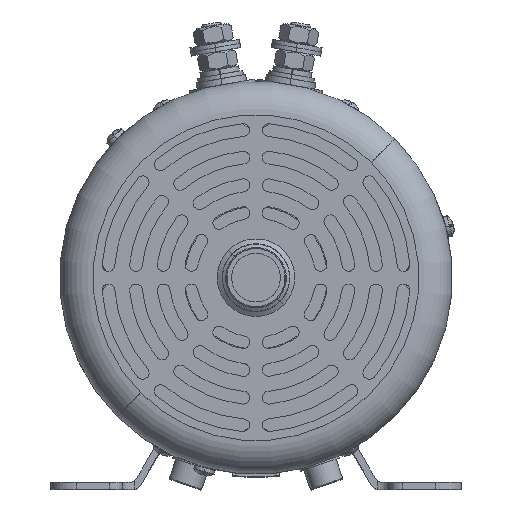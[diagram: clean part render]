
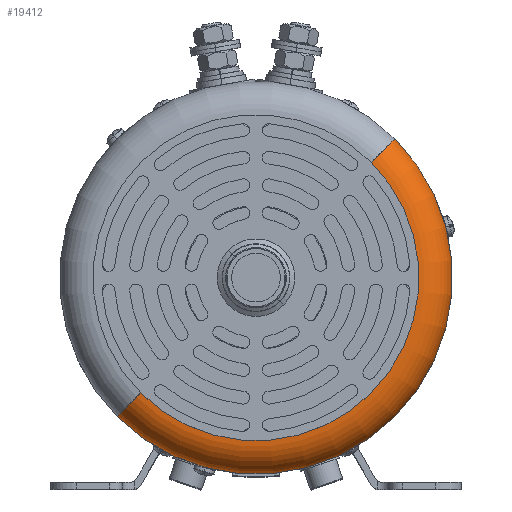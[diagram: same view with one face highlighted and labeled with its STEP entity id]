
A CAD part, top view. The second image highlights one B-rep face of the part: STEP entity #19412.
In plain terms, the highlighted toroidal (fillet/blend) face has major radius 61.913 mm and minor radius 12.7 mm.
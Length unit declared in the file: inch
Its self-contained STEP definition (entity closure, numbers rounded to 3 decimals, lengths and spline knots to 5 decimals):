
#2756 = AXIS2_PLACEMENT_3D ( 'NONE', #59651, #68294, #92169 ) ;
#8000 = CARTESIAN_POINT ( 'NONE',  ( 0., 0., 16.6408 ) ) ;
#10303 = CARTESIAN_POINT ( 'NONE',  ( 0., 0., 17.1408 ) ) ;
#19412 = ADVANCED_FACE ( 'NONE', ( #103303 ), #81299, .T. ) ;
#21121 = ORIENTED_EDGE ( 'NONE', *, *, #81536, .F. ) ;
#21929 = AXIS2_PLACEMENT_3D ( 'NONE', #53614, #29404, #37657 ) ;
#27619 = CIRCLE ( 'NONE', #87760, 0.5 ) ;
#28827 = CARTESIAN_POINT ( 'NONE',  ( -2.07713, -2.07713, 16.6408 ) ) ;
#29404 = DIRECTION ( 'NONE',  ( 0.707, -0.707, 0. ) ) ;
#33293 = AXIS2_PLACEMENT_3D ( 'NONE', #10303, #94037, #93329 ) ;
#34237 = AXIS2_PLACEMENT_3D ( 'NONE', #8000, #98635, #49494 ) ;
#37657 = DIRECTION ( 'NONE',  ( 0.707, 0.707, 0. ) ) ;
#38096 = CIRCLE ( 'NONE', #33293, 2.4375 ) ;
#41015 = ORIENTED_EDGE ( 'NONE', *, *, #41252, .T. ) ;
#41252 = EDGE_CURVE ( 'NONE', #59189, #94440, #102871, .T. ) ;
#44491 = CARTESIAN_POINT ( 'NONE',  ( 1.72357, 1.72357, 17.1408 ) ) ;
#45858 = VERTEX_POINT ( 'NONE', #72366 ) ;
#48560 = CARTESIAN_POINT ( 'NONE',  ( -1.72357, -1.72357, 16.6408 ) ) ;
#49494 = DIRECTION ( 'NONE',  ( 0.707, 0.707, 0. ) ) ;
#52371 = CIRCLE ( 'NONE', #21929, 0.5 ) ;
#53614 = CARTESIAN_POINT ( 'NONE',  ( 1.72357, 1.72357, 16.6408 ) ) ;
#59189 = VERTEX_POINT ( 'NONE', #28827 ) ;
#59651 = CARTESIAN_POINT ( 'NONE',  ( 0., 0., 16.6408 ) ) ;
#64334 = CARTESIAN_POINT ( 'NONE',  ( 2.07713, 2.07713, 16.6408 ) ) ;
#68294 = DIRECTION ( 'NONE',  ( 0., 0., 1. ) ) ;
#71777 = EDGE_LOOP ( 'NONE', ( #82313, #41015, #94760, #21121 ) ) ;
#72366 = CARTESIAN_POINT ( 'NONE',  ( -1.72357, -1.72357, 17.1408 ) ) ;
#81299 = TOROIDAL_SURFACE ( 'NONE', #34237, 2.4375, 0.5 ) ;
#81536 = EDGE_CURVE ( 'NONE', #45858, #88981, #38096, .T. ) ;
#82313 = ORIENTED_EDGE ( 'NONE', *, *, #87368, .F. ) ;
#86423 = EDGE_CURVE ( 'NONE', #94440, #88981, #52371, .T. ) ;
#87368 = EDGE_CURVE ( 'NONE', #59189, #45858, #27619, .T. ) ;
#87760 = AXIS2_PLACEMENT_3D ( 'NONE', #48560, #91182, #106376 ) ;
#88981 = VERTEX_POINT ( 'NONE', #44491 ) ;
#91182 = DIRECTION ( 'NONE',  ( -0.707, 0.707, 0. ) ) ;
#92169 = DIRECTION ( 'NONE',  ( 0.707, 0.707, 0. ) ) ;
#93329 = DIRECTION ( 'NONE',  ( 0.707, 0.707, 0. ) ) ;
#94037 = DIRECTION ( 'NONE',  ( 0., 0., 1. ) ) ;
#94440 = VERTEX_POINT ( 'NONE', #64334 ) ;
#94760 = ORIENTED_EDGE ( 'NONE', *, *, #86423, .T. ) ;
#98635 = DIRECTION ( 'NONE',  ( 0., 0., 1. ) ) ;
#102871 = CIRCLE ( 'NONE', #2756, 2.9375 ) ;
#103303 = FACE_OUTER_BOUND ( 'NONE', #71777, .T. ) ;
#106376 = DIRECTION ( 'NONE',  ( -0.707, -0.707, 0. ) ) ;
